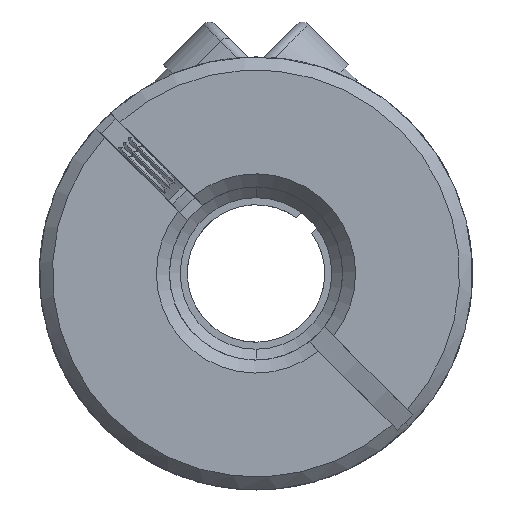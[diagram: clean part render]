
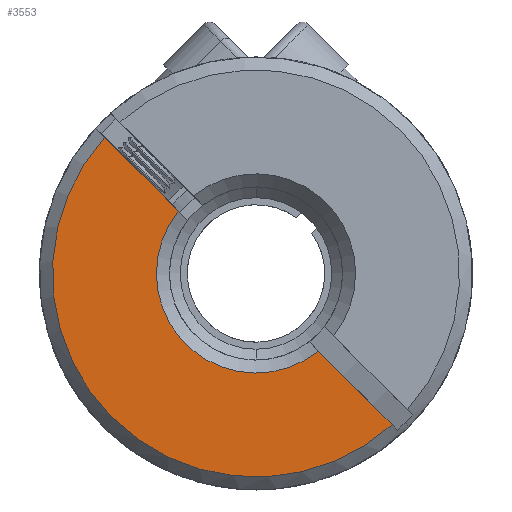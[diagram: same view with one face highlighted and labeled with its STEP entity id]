
A CAD part, front view. The second image highlights one B-rep face of the part: STEP entity #3553.
In plain terms, the highlighted planar face has unit normal (0, -1, 0).
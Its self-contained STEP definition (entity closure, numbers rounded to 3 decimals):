
#65 = EDGE_CURVE ( 'NONE', #12642, #8511, #6187, .T. ) ;
#228 = CARTESIAN_POINT ( 'NONE',  ( -6.991, -11.2, 6.284 ) ) ;
#278 = CARTESIAN_POINT ( 'NONE',  ( -3.587, -11.2, 2.88 ) ) ;
#599 = EDGE_LOOP ( 'NONE', ( #2933, #9796, #5522, #7525 ) ) ;
#998 = FACE_OUTER_BOUND ( 'NONE', #599, .T. ) ;
#1259 = EDGE_CURVE ( 'NONE', #3707, #12751, #13020, .T. ) ;
#1263 = CARTESIAN_POINT ( 'NONE',  ( 0., -11.2, 0. ) ) ;
#1308 = DIRECTION ( 'NONE',  ( 0., 1., 0. ) ) ;
#1939 = DIRECTION ( 'NONE',  ( 0., -1., 0. ) ) ;
#2015 = AXIS2_PLACEMENT_3D ( 'NONE', #12446, #1939, #10051 ) ;
#2838 = CARTESIAN_POINT ( 'NONE',  ( 0., -11.2, 0. ) ) ;
#2865 = CARTESIAN_POINT ( 'NONE',  ( -8.839, -11.2, 8.132 ) ) ;
#2933 = ORIENTED_EDGE ( 'NONE', *, *, #9923, .T. ) ;
#3353 = DIRECTION ( 'NONE',  ( -0.707, 0., 0.707 ) ) ;
#3553 = ADVANCED_FACE ( 'NONE', ( #998 ), #6476, .T. ) ;
#3707 = VERTEX_POINT ( 'NONE', #7118 ) ;
#5522 = ORIENTED_EDGE ( 'NONE', *, *, #7292, .T. ) ;
#5830 = CARTESIAN_POINT ( 'NONE',  ( 6.284, -11.2, -6.991 ) ) ;
#5951 = VECTOR ( 'NONE', #14525, 1000. ) ;
#6187 = CIRCLE ( 'NONE', #10405, 9.4 ) ;
#6208 = DIRECTION ( 'NONE',  ( -0.707, 0., 0.707 ) ) ;
#6476 = PLANE ( 'NONE',  #2015 ) ;
#7118 = CARTESIAN_POINT ( 'NONE',  ( 2.88, -11.2, -3.587 ) ) ;
#7292 = EDGE_CURVE ( 'NONE', #8511, #3707, #14808, .T. ) ;
#7525 = ORIENTED_EDGE ( 'NONE', *, *, #1259, .T. ) ;
#8335 = DIRECTION ( 'NONE',  ( -0.707, 0., 0.707 ) ) ;
#8511 = VERTEX_POINT ( 'NONE', #5830 ) ;
#9561 = VECTOR ( 'NONE', #3353, 1000. ) ;
#9796 = ORIENTED_EDGE ( 'NONE', *, *, #65, .T. ) ;
#9923 = EDGE_CURVE ( 'NONE', #12751, #12642, #13337, .T. ) ;
#10051 = DIRECTION ( 'NONE',  ( -0.707, 0., 0.707 ) ) ;
#10237 = AXIS2_PLACEMENT_3D ( 'NONE', #1263, #1308, #8335 ) ;
#10405 = AXIS2_PLACEMENT_3D ( 'NONE', #2838, #13144, #6208 ) ;
#11338 = CARTESIAN_POINT ( 'NONE',  ( 0.205, -11.2, -0.912 ) ) ;
#12446 = CARTESIAN_POINT ( 'NONE',  ( 45.083, -11.2, 25.627 ) ) ;
#12642 = VERTEX_POINT ( 'NONE', #228 ) ;
#12751 = VERTEX_POINT ( 'NONE', #278 ) ;
#13020 = CIRCLE ( 'NONE', #10237, 4.6 ) ;
#13144 = DIRECTION ( 'NONE',  ( 0., -1., 0. ) ) ;
#13337 = LINE ( 'NONE', #11338, #9561 ) ;
#14525 = DIRECTION ( 'NONE',  ( -0.707, 0., 0.707 ) ) ;
#14808 = LINE ( 'NONE', #2865, #5951 ) ;
